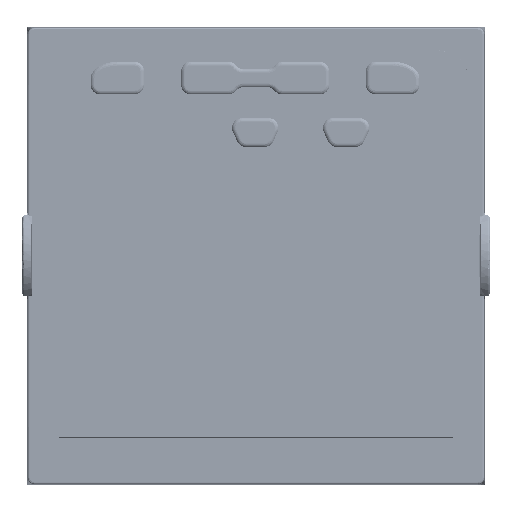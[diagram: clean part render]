
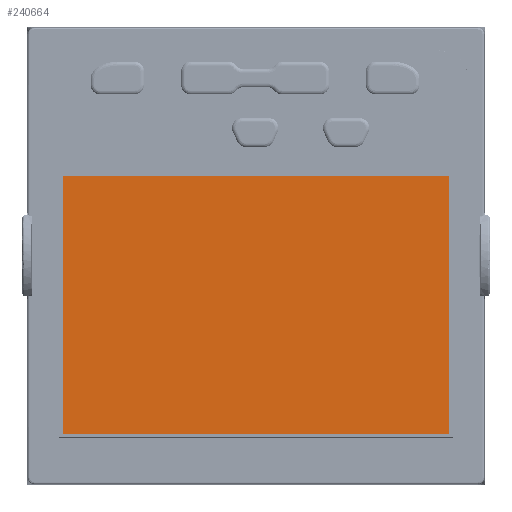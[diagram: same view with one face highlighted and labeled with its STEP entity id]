
A CAD part, top view. The second image highlights one B-rep face of the part: STEP entity #240664.
In plain terms, the highlighted planar face has unit normal (0, 0, 1).
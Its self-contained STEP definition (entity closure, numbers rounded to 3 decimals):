
#10893=DIRECTION('',(1.,0.,0.));
#10894=VECTOR('',#10893,80.9);
#10895=CARTESIAN_POINT('',(5.55,8.801,0.2));
#10896=LINE('',#10895,#10894);
#10897=DIRECTION('',(0.,-1.,0.));
#10898=VECTOR('',#10897,53.898);
#10899=CARTESIAN_POINT('',(5.55,62.699,0.2));
#10900=LINE('',#10899,#10898);
#10909=DIRECTION('',(-1.,0.,0.));
#10910=VECTOR('',#10909,80.9);
#10911=CARTESIAN_POINT('',(86.45,62.699,0.2));
#10912=LINE('',#10911,#10910);
#10917=DIRECTION('',(0.,1.,0.));
#10918=VECTOR('',#10917,53.898);
#10919=CARTESIAN_POINT('',(86.45,8.801,0.2));
#10920=LINE('',#10919,#10918);
#172817=CARTESIAN_POINT('',(5.55,8.801,0.2));
#172818=CARTESIAN_POINT('',(86.45,8.801,0.2));
#172819=VERTEX_POINT('',#172817);
#172820=VERTEX_POINT('',#172818);
#172823=CARTESIAN_POINT('',(86.45,62.699,0.2));
#172824=VERTEX_POINT('',#172823);
#172827=CARTESIAN_POINT('',(5.55,62.699,0.2));
#172828=VERTEX_POINT('',#172827);
#240650=CARTESIAN_POINT('',(46.,35.75,0.2));
#240651=DIRECTION('',(0.,0.,1.));
#240652=DIRECTION('',(1.,0.,0.));
#240653=AXIS2_PLACEMENT_3D('',#240650,#240651,#240652);
#240654=PLANE('',#240653);
#240655=ORIENTED_EDGE('',*,*,#240640,.F.);
#240657=ORIENTED_EDGE('',*,*,#240656,.F.);
#240659=ORIENTED_EDGE('',*,*,#240658,.F.);
#240661=ORIENTED_EDGE('',*,*,#240660,.F.);
#240662=EDGE_LOOP('',(#240655,#240657,#240659,#240661));
#240663=FACE_OUTER_BOUND('',#240662,.F.);
#240640=EDGE_CURVE('',#172819,#172820,#10896,.T.);
#240656=EDGE_CURVE('',#172828,#172819,#10900,.T.);
#240658=EDGE_CURVE('',#172824,#172828,#10912,.T.);
#240660=EDGE_CURVE('',#172820,#172824,#10920,.T.);
#240664=ADVANCED_FACE('',(#240663),#240654,.T.);
